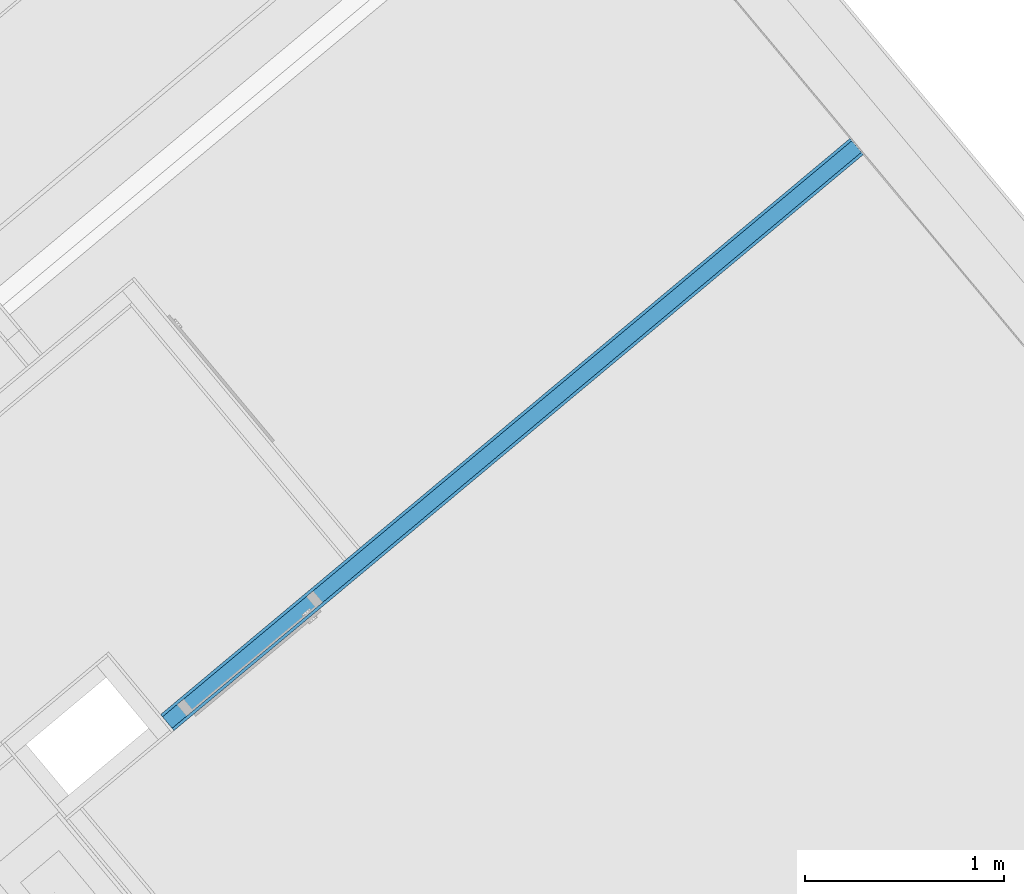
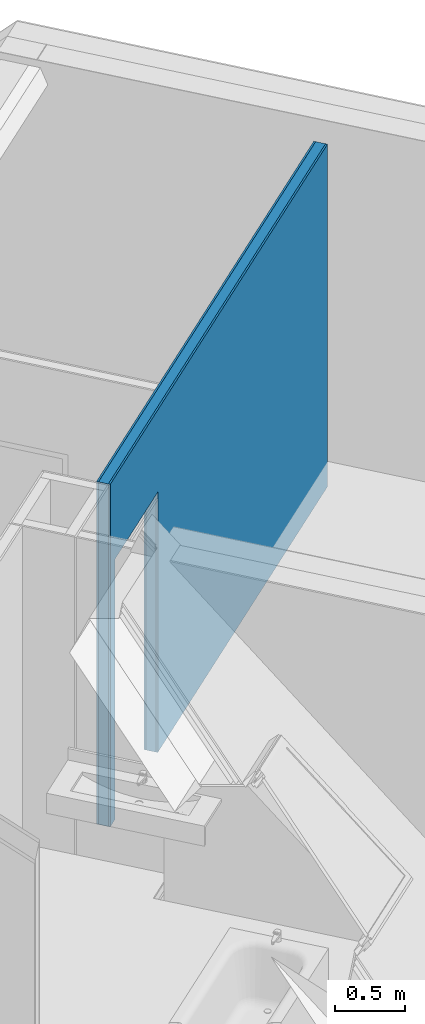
# One storey, part 3 of 47: 3 building element parts, 1 opening, 1 element without a shape of its own.
"""IFC4 building model written with IfcOpenShell, lengths in metres."""

from ifc_helpers import new_model, entity, si_unit, converted_unit, derived_unit, direction, frame, origin_with_axes, place, context, subcontext, project, spatial, polygons, material, type_object, element, aggregate, save


model = new_model("IFC4")

# Units and contexts
model_context = context("Model", 3, precision=1e-05, world=origin_with_axes(), true_north=direction((0.0, 1.0)))
body_context = subcontext(model_context, "Body", "Model", "MODEL_VIEW")
ifc_project = project(units=[si_unit("LENGTHUNIT", "METRE"), si_unit("AREAUNIT", "SQUARE_METRE"), si_unit("VOLUMEUNIT", "CUBIC_METRE"), converted_unit("PLANEANGLEUNIT", "DEGREE", entity("IfcPlaneAngleMeasure", 0.0174532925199), si_unit("PLANEANGLEUNIT", "RADIAN"), dimensions=[0, 0, 0, 0, 0, 0, 0]), converted_unit("TIMEUNIT", "Year", entity("IfcTimeMeasure", 31556926.0), si_unit("TIMEUNIT", "SECOND"), dimensions=[0, 0, 1, 0, 0, 0, 0]), si_unit("MASSUNIT", "GRAM", prefix="KILO"), si_unit("THERMODYNAMICTEMPERATUREUNIT", "DEGREE_CELSIUS"), si_unit("LUMINOUSINTENSITYUNIT", "LUMEN"), si_unit("ENERGYUNIT", "JOULE", prefix="MEGA"), derived_unit("THERMALCONDUCTANCEUNIT", [(si_unit("POWERUNIT", "WATT"), 1), (si_unit("LENGTHUNIT", "METRE"), -1), (si_unit("THERMODYNAMICTEMPERATUREUNIT", "KELVIN"), -1)]), derived_unit("SPECIFICHEATCAPACITYUNIT", [(si_unit("ENERGYUNIT", "JOULE"), 1), (si_unit("MASSUNIT", "GRAM", prefix="KILO"), -1), (si_unit("THERMODYNAMICTEMPERATUREUNIT", "KELVIN"), -1)]), derived_unit("MASSDENSITYUNIT", [(si_unit("MASSUNIT", "GRAM", prefix="KILO"), 1), (si_unit("VOLUMEUNIT", "CUBIC_METRE"), -1)])], contexts=[model_context])

# Site, building, storey
site_placement = place(None, frame((-0.00153261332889, -0.00661245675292, 0.0), z_axis=(0.0, 0.0, 1.0), x_axis=(1.0, 0.0, 0.0)))
site = spatial("IfcSite", under=ifc_project, at=site_placement, Name="Site", CompositionType="ELEMENT")
building_placement = place(site_placement, origin_with_axes())
building = spatial("IfcBuilding", under=site, at=building_placement, Name="Building", CompositionType="ELEMENT")
storey_placement = place(building_placement, frame((0.0, 0.0, 8.66), z_axis=(0.0, 0.0, 1.0), x_axis=(1.0, 0.0, 0.0)))
storey = spatial("IfcBuildingStorey", under=building, at=storey_placement, Name="DG2", CompositionType="ELEMENT", Elevation=8.66)

# Wall, opening, building element parts
wall_type = type_object("IfcWallType", Name="IW LB 01 Leichtbautrennwand einfach 10,5 cm 105", PredefinedType="NOTDEFINED")
wall_placement = place(storey_placement, frame((5.90363940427, 21.5689621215, 0.0), z_axis=(0.0, 0.0, 1.0), x_axis=(0.767365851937, 0.641209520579, 0.0)))
wall = element("IfcWall", 1, at=wall_placement, inside=storey, type_object=wall_type, Name="Wand-012", PredefinedType="NOTDEFINED")
opening_placement = place(wall_placement, frame((0.539385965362, 0.0, 0.22), z_axis=(0.0, 0.0, 1.0), x_axis=(1.0, 0.0, 0.0)))
element("IfcOpeningElement", 2, at=opening_placement, cuts=wall, Name="Tür-016", context=body_context, identifier="Reference", shape_type="Tessellation", body=[
    polygons([(0.445, 2.52855616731, 2.045), (0.445, 2.52855616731, -0.22), (-0.445, 2.52855616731, -0.22), (-0.445, 2.52855616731, 2.045), (0.445, -2.42355616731, 2.045), (0.445, -2.42355616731, -0.22), (-0.445, -2.42355616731, -0.22), (-0.445, -2.42355616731, 2.045)], [[[1, 2, 3, 4]], [[5, 6, 2, 1]], [[6, 7, 3, 2]], [[7, 8, 4, 3]], [[8, 5, 1, 4]], [[7, 6, 5, 8]]], closed=True),
])
ifc_material_1 = material(Name="Gipskarton")
building_element_part_1_placement = place(wall_placement, origin_with_axes())
building_element_part_1 = element("IfcBuildingElementPart", 3, at=building_element_part_1_placement, material=ifc_material_1, Name="Gipskarton", PredefinedType="NOTDEFINED", context=body_context, shape_type="Tessellation", body=[
    polygons([(0.0943859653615, 0.09, 0.22), (0.0943859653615, 0.09, 2.265), (0.984385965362, 0.09, 2.265), (0.984385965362, 0.09, 0.22), (0.984385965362, 0.09, 0.0), (4.50347145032, 0.09, 0.0), (4.50347145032, 0.09, 2.98), (0.0, 0.09, 2.98), (0.0, 0.09, 0.0), (0.0943859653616, 0.09, 0.0), (0.0943859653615, 0.105, 0.22), (0.0943859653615, 0.105, 2.265), (0.984385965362, 0.105, 2.265), (0.984385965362, 0.105, 0.22), (0.984385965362, 0.105, 0.0), (4.50347145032, 0.105, 0.0), (4.50347145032, 0.105, 2.98), (0.0, 0.105, 2.98), (0.0, 0.105, 0.0), (0.0943859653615, 0.105, 0.0)], [[[1, 2, 3, 4, 5, 6, 7, 8, 9, 10]], [[2, 1, 11, 12]], [[3, 2, 12, 13]], [[4, 3, 13, 14]], [[4, 14, 15, 5]], [[15, 16, 6, 5]], [[16, 17, 7, 6]], [[17, 18, 8, 7]], [[19, 9, 8, 18]], [[10, 9, 19, 20]], [[11, 1, 10, 20]], [[12, 11, 20, 19, 18, 17, 16, 15, 14, 13]]], closed=True),
])
ifc_material_2 = material(Name="Mineralwolle weich")
building_element_part_2_placement = place(wall_placement, origin_with_axes())
building_element_part_2 = element("IfcBuildingElementPart", 4, at=building_element_part_2_placement, material=ifc_material_2, Name="Mineralwolle weich", PredefinedType="NOTDEFINED", context=body_context, shape_type="Tessellation", body=[
    polygons([(0.0943859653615, 0.015, 0.22), (0.0943859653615, 0.015, 2.265), (0.984385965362, 0.015, 2.265), (0.984385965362, 0.015, 0.22), (0.984385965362, 0.015, 0.0), (4.50347145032, 0.015, 0.0), (4.50347145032, 0.015, 2.98), (0.0, 0.015, 2.98), (0.0, 0.015, 0.0), (0.0943859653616, 0.015, 0.0), (0.0943859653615, 0.09, 0.22), (0.0943859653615, 0.09, 2.265), (0.984385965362, 0.09, 2.265), (0.984385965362, 0.09, 0.22), (0.984385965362, 0.09, 0.0), (4.50347145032, 0.09, 0.0), (4.50347145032, 0.09, 2.98), (0.0, 0.09, 2.98), (0.0, 0.09, 0.0), (0.0943859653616, 0.09, 0.0)], [[[1, 2, 3, 4, 5, 6, 7, 8, 9, 10]], [[2, 1, 11, 12]], [[3, 2, 12, 13]], [[4, 3, 13, 14]], [[4, 14, 15, 5]], [[15, 16, 6, 5]], [[16, 17, 7, 6]], [[17, 18, 8, 7]], [[19, 9, 8, 18]], [[10, 9, 19, 20]], [[11, 1, 10, 20]], [[12, 11, 20, 19, 18, 17, 16, 15, 14, 13]]], closed=True),
])
building_element_part_3_placement = place(wall_placement, origin_with_axes())
building_element_part_3 = element("IfcBuildingElementPart", 5, at=building_element_part_3_placement, material=ifc_material_1, Name="Gipskarton", PredefinedType="NOTDEFINED", context=body_context, shape_type="Tessellation", body=[
    polygons([(0.0943859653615, 5.44671738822e-08, 0.22), (0.0943859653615, 1.40594789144e-08, 2.265), (0.984385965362, 1.40594789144e-08, 2.265), (0.984385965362, 1.40594789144e-08, 0.22), (0.984385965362, 1.40594789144e-08, 0.0), (4.50347145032, 0.0, 0.0), (4.50347145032, 0.0, 2.98), (0.0, 0.0, 2.98), (0.0, 0.0, 0.0), (0.0943859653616, 5.44671721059e-08, 0.0), (0.0943859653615, 0.015, 0.22), (0.0943859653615, 0.015, 2.265), (0.984385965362, 0.015, 2.265), (0.984385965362, 0.015, 0.22), (0.984385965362, 0.015, 0.0), (4.50347145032, 0.015, 0.0), (4.50347145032, 0.015, 2.98), (0.0, 0.015, 2.98), (0.0, 0.015, 0.0), (0.0943859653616, 0.015, 0.0)], [[[1, 2, 3, 4, 5, 6, 7, 8, 9, 10]], [[2, 1, 11, 12]], [[3, 2, 12, 13]], [[4, 3, 13, 14]], [[4, 14, 15, 5]], [[15, 16, 6, 5]], [[16, 17, 7, 6]], [[17, 18, 8, 7]], [[19, 9, 8, 18]], [[10, 9, 19, 20]], [[11, 1, 10, 20]], [[12, 11, 20, 19, 18, 17, 16, 15, 14, 13]]], closed=True),
])
aggregate(wall, [building_element_part_1, building_element_part_2, building_element_part_3])

save(model, "model.ifc")
